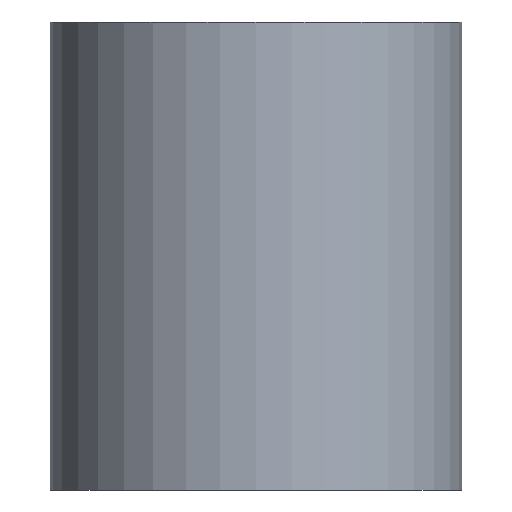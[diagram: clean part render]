
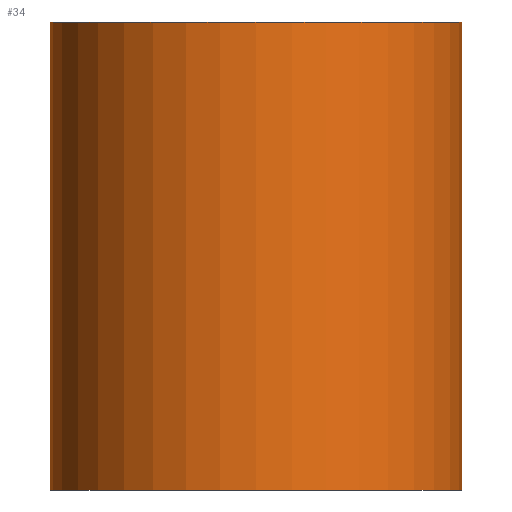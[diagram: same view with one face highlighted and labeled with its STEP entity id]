
A CAD part, front view. The second image highlights one B-rep face of the part: STEP entity #34.
In plain terms, the highlighted cylindrical face has radius 11 mm (diameter 22 mm), a full revolution.
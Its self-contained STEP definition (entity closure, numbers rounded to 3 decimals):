
#34 = ADVANCED_FACE( '', ( #65, #66 ), #67, .T. );
#65 = FACE_OUTER_BOUND( '', #88, .T. );
#66 = FACE_OUTER_BOUND( '', #89, .T. );
#67 = CYLINDRICAL_SURFACE( '', #90, 11. );
#88 = EDGE_LOOP( '', ( #111 ) );
#89 = EDGE_LOOP( '', ( #112 ) );
#90 = AXIS2_PLACEMENT_3D( '', #113, #114, #115 );
#111 = ORIENTED_EDGE( '', *, *, #121, .F. );
#112 = ORIENTED_EDGE( '', *, *, #118, .T. );
#113 = CARTESIAN_POINT( '', ( 0., 0., -25. ) );
#114 = DIRECTION( '', ( 0., 0., -1. ) );
#115 = DIRECTION( '', ( 1., 0., 0. ) );
#118 = EDGE_CURVE( '', #127, #127, #128, .T. );
#121 = EDGE_CURVE( '', #132, #132, #133, .T. );
#127 = VERTEX_POINT( '', #139 );
#128 = CIRCLE( '', #140, 11. );
#132 = VERTEX_POINT( '', #144 );
#133 = CIRCLE( '', #145, 11. );
#139 = CARTESIAN_POINT( '', ( 11., 0., 0. ) );
#140 = AXIS2_PLACEMENT_3D( '', #151, #152, #153 );
#144 = CARTESIAN_POINT( '', ( 11., 0., -25. ) );
#145 = AXIS2_PLACEMENT_3D( '', #157, #158, #159 );
#151 = CARTESIAN_POINT( '', ( 0., 0., 0. ) );
#152 = DIRECTION( '', ( 0., 0., -1. ) );
#153 = DIRECTION( '', ( 1., 0., 0. ) );
#157 = CARTESIAN_POINT( '', ( 0., 0., -25. ) );
#158 = DIRECTION( '', ( 0., 0., -1. ) );
#159 = DIRECTION( '', ( 1., 0., 0. ) );
